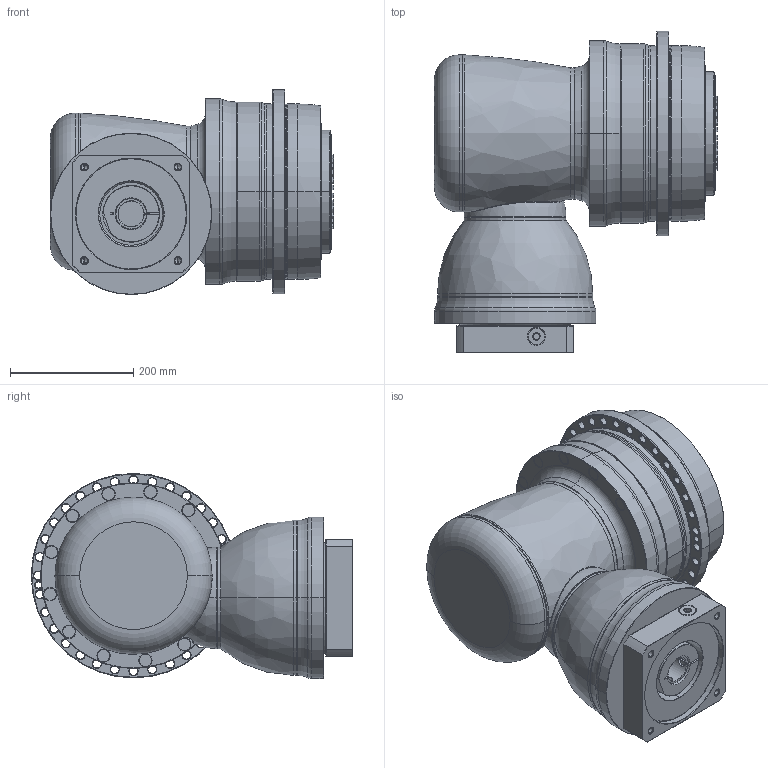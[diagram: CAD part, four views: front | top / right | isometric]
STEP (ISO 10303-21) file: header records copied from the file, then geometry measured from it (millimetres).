
FILE_DESCRIPTION((''),'2;1');
FILE_NAME('APCK285_2ST_42-P0409A00201_ASM','2018-05-10T',('d01226'),(''),'PRO/ENGINEER BY PARAMETRIC TECHNOLOGY CORPORATION, 2008410','PRO/ENGINEER BY PARAMETRIC TECHNOLOGY CORPORATION, 2008410','');
FILE_SCHEMA(('CONFIG_CONTROL_DESIGN'));
Length unit declared in the file: millimetre
Products named in the file (13): P1008700002; P1802810001; P0278801003; P03598G0103; P1211800001; P1315700001; P1007701001; P1318701201; P0409A00201; P0503A00012; P0912702001; 21711422019; APCK285_2ST_42-P0409A00201_ASM
Assembly tree (12 placements, depth 2):
  APCK285_2ST_42-P0409A00201_ASM
    P1008700002
    P1802810001
    P0278801003
    P03598G0103
    P1211800001
    P1315700001
    P1007701001
    P1318701201
    P0409A00201
    P0503A00012
    P0912702001
    21711422019
Bounding box: 459.6 x 522 x 333 mm (x, y, z)
Volume: 34803072.9 mm3; surface area: 1847054.5 mm2
Topology: 13 solids, 25 shells, 959 faces, 2275 edges, 1403 vertices
Faces by surface type: cone 308, cylinder 300, plane 185, torus 136, bspline 28, sphere 2
Entity records: 36132 total; most frequent: CARTESIAN_POINT 13262, DIRECTION 5156, ORIENTED_EDGE 4472, AXIS2_PLACEMENT_3D 2268, EDGE_CURVE 2261, VERTEX_POINT 1403, CIRCLE 1300, EDGE_LOOP 1118
